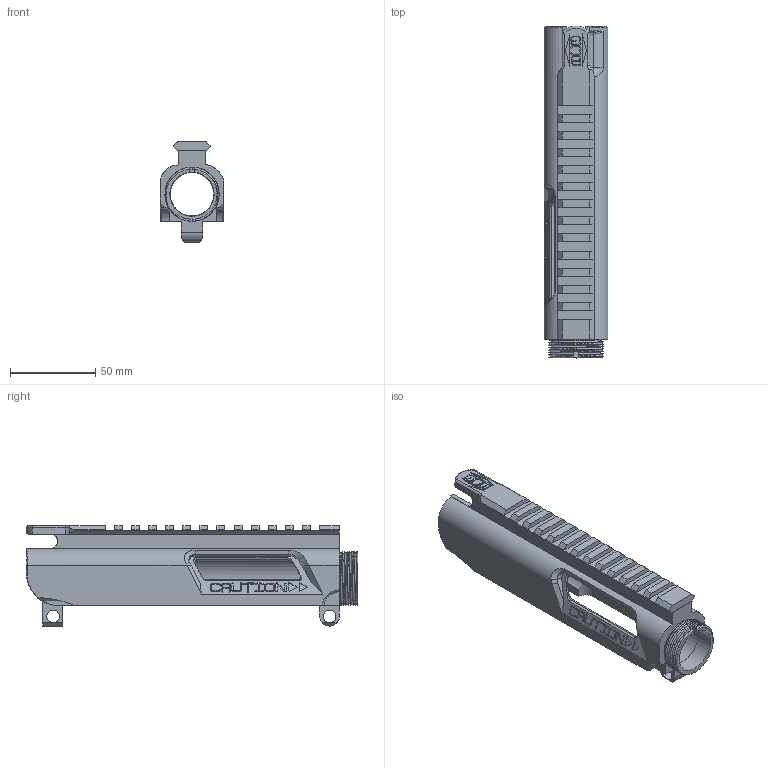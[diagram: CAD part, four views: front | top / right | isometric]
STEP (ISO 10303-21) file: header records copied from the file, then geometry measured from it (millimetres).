
FILE_DESCRIPTION(/* description */ (''),/* implementation_level */ '2;1');
FILE_NAME(/* name */ 'C:/Users/jeremy/OneDrive/Desktop/SG22 Upper Release.step',/* time_stamp */ '2021-03-18T08:52:52-06:00',/* author */ (''),/* organization */ (''),/* preprocessor_version */ 'ST-DEVELOPER v18.1',/* originating_system */ 'Autodesk Translation Framework v9.10.0.1330',/* authorisation */ '');
FILE_SCHEMA (('AUTOMOTIVE_DESIGN { 1 0 10303 214 3 1 1 }'));
Length unit declared in the file: millimetre
Products named in the file (1): Brace V2
Bounding box: 37.37 x 194.4 x 59 mm (x, y, z)
Volume: 111829.5 mm3; surface area: 52456.8 mm2
Topology: 1 solids, 1 shells, 682 faces, 1949 edges, 1282 vertices
Faces by surface type: plane 396, bspline 143, cylinder 87, cone 50, torus 6
Full cylindrical faces by diameter (mm): 7.35 x1, 7.358 x1, 25.546 x1, 25.927 x1, 29.782 x1, 31.7 x4
Entity records: 25076 total; most frequent: CARTESIAN_POINT 8711, ORIENTED_EDGE 3890, DIRECTION 2780, EDGE_CURVE 1945, LINE 1296, VECTOR 1296, VERTEX_POINT 1282, AXIS2_PLACEMENT_3D 742
